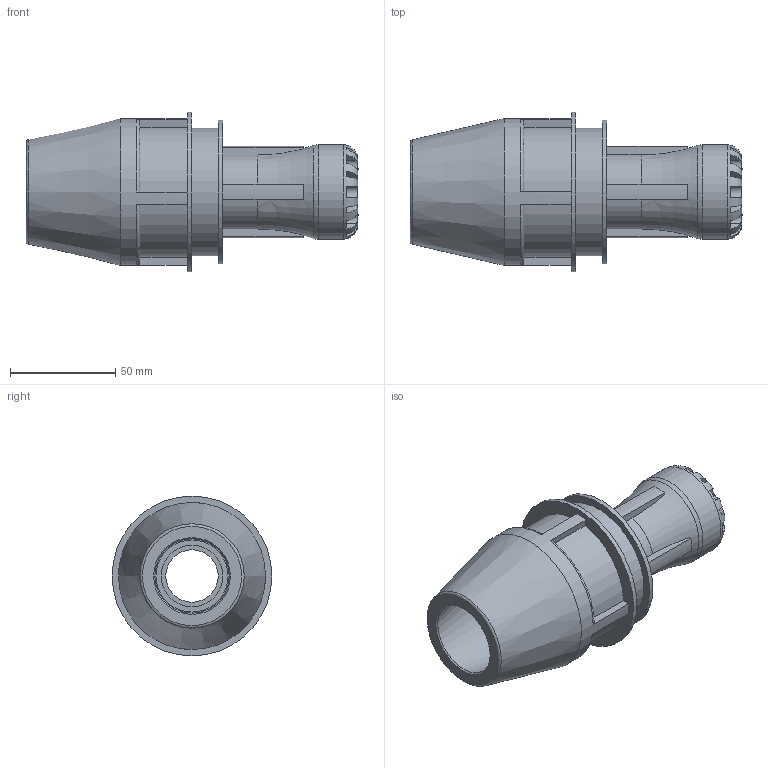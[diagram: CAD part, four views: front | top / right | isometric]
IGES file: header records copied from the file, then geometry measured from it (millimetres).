
Global section: file name: 100170025035.ipt; native system: Autodesk Inventor 2015; preprocessor: unknown; author: KIM; date: 20190127.091349; units: millimetre
Bounding box: 158 x 76 x 76 mm (x, y, z)
Volume: 213568.7 mm3; surface area: 56905.8 mm2
Topology: 1 solids, 1 shells, 129 faces, 341 edges, 221 vertices
Faces by surface type: plane 81, cylinder 25, revolution 22, cone 1
Full cylindrical faces by diameter (mm): 45 x1, 60.8 x1, 68.4 x1, 69.92 x1, 76 x1
